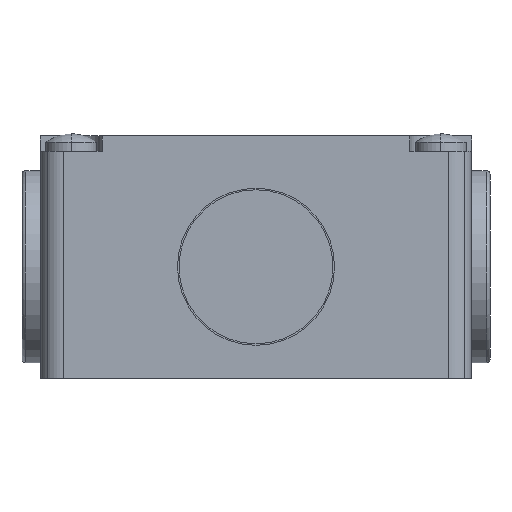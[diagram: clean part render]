
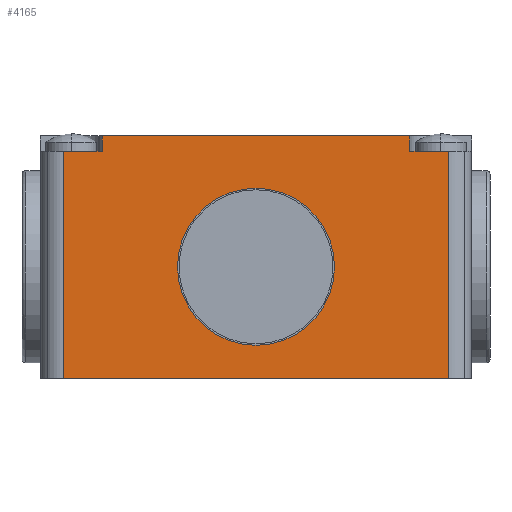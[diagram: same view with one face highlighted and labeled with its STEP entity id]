
A CAD part, front view. The second image highlights one B-rep face of the part: STEP entity #4165.
In plain terms, the highlighted planar face has unit normal (0, -1, 0).
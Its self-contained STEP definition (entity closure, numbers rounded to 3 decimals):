
#81 = VERTEX_POINT ( 'NONE', #1292 ) ;
#93 = ORIENTED_EDGE ( 'NONE', *, *, #11031, .F. ) ;
#142 = ORIENTED_EDGE ( 'NONE', *, *, #2357, .F. ) ;
#782 = VECTOR ( 'NONE', #4294, 1000. ) ;
#917 = DIRECTION ( 'NONE',  ( 0., 0., -1. ) ) ;
#1042 = CARTESIAN_POINT ( 'NONE',  ( 20., -56.8, 17. ) ) ;
#1043 = CARTESIAN_POINT ( 'NONE',  ( -20., -56.8, 15. ) ) ;
#1221 = VERTEX_POINT ( 'NONE', #4106 ) ;
#1263 = ORIENTED_EDGE ( 'NONE', *, *, #5627, .T. ) ;
#1292 = CARTESIAN_POINT ( 'NONE',  ( -20., -56.8, 17. ) ) ;
#1331 = EDGE_CURVE ( 'NONE', #2002, #10194, #3453, .T. ) ;
#1620 = CARTESIAN_POINT ( 'NONE',  ( 20., -56.8, 15. ) ) ;
#1984 = CARTESIAN_POINT ( 'NONE',  ( 0., -56.8, 0. ) ) ;
#2002 = VERTEX_POINT ( 'NONE', #4084 ) ;
#2357 = EDGE_CURVE ( 'NONE', #10194, #81, #8497, .T. ) ;
#3244 = VECTOR ( 'NONE', #8701, 1000. ) ;
#3422 = DIRECTION ( 'NONE',  ( 0., 0., -1. ) ) ;
#3453 = LINE ( 'NONE', #7040, #18071 ) ;
#3707 = LINE ( 'NONE', #8649, #782 ) ;
#3780 = CARTESIAN_POINT ( 'NONE',  ( -25., -56.8, -14.5 ) ) ;
#3946 = CARTESIAN_POINT ( 'NONE',  ( 28., -56.8, 15. ) ) ;
#4084 = CARTESIAN_POINT ( 'NONE',  ( -25., -56.8, 15. ) ) ;
#4106 = CARTESIAN_POINT ( 'NONE',  ( 25., -56.8, -14.5 ) ) ;
#4165 = ADVANCED_FACE ( 'NONE', ( #16533, #12206 ), #8171, .T. ) ;
#4201 = VERTEX_POINT ( 'NONE', #15537 ) ;
#4294 = DIRECTION ( 'NONE',  ( 1., 0., 0. ) ) ;
#4316 = LINE ( 'NONE', #3780, #11618 ) ;
#4466 = ORIENTED_EDGE ( 'NONE', *, *, #11090, .F. ) ;
#4679 = ORIENTED_EDGE ( 'NONE', *, *, #18797, .T. ) ;
#5101 = ORIENTED_EDGE ( 'NONE', *, *, #12357, .F. ) ;
#5249 = DIRECTION ( 'NONE',  ( 0., 0., 1. ) ) ;
#5457 = LINE ( 'NONE', #3946, #12765 ) ;
#5627 = EDGE_CURVE ( 'NONE', #15827, #1221, #3707, .T. ) ;
#5630 = EDGE_CURVE ( 'NONE', #5748, #11929, #7121, .T. ) ;
#5733 = CARTESIAN_POINT ( 'NONE',  ( 0., -56.8, -10.2 ) ) ;
#5748 = VERTEX_POINT ( 'NONE', #1620 ) ;
#5768 = CARTESIAN_POINT ( 'NONE',  ( 20., -56.8, 15. ) ) ;
#6255 = CARTESIAN_POINT ( 'NONE',  ( 25., -56.8, -14.5 ) ) ;
#6814 = CARTESIAN_POINT ( 'NONE',  ( 0., -56.8, 0. ) ) ;
#7040 = CARTESIAN_POINT ( 'NONE',  ( -28., -56.8, 15. ) ) ;
#7106 = AXIS2_PLACEMENT_3D ( 'NONE', #6814, #17051, #8312 ) ;
#7121 = LINE ( 'NONE', #5768, #3244 ) ;
#7260 = AXIS2_PLACEMENT_3D ( 'NONE', #1984, #12176, #3422 ) ;
#7977 = CARTESIAN_POINT ( 'NONE',  ( -25., -56.8, -14.5 ) ) ;
#8171 = PLANE ( 'NONE',  #17757 ) ;
#8312 = DIRECTION ( 'NONE',  ( 0., 0., -1. ) ) ;
#8402 = CARTESIAN_POINT ( 'NONE',  ( -25., -56.8, 17. ) ) ;
#8424 = VECTOR ( 'NONE', #17943, 1000. ) ;
#8497 = LINE ( 'NONE', #15086, #11913 ) ;
#8649 = CARTESIAN_POINT ( 'NONE',  ( -25., -56.8, -14.5 ) ) ;
#8701 = DIRECTION ( 'NONE',  ( 0., 0., 1. ) ) ;
#9129 = CARTESIAN_POINT ( 'NONE',  ( 0., -56.8, 10.2 ) ) ;
#9483 = EDGE_LOOP ( 'NONE', ( #4466, #15106 ) ) ;
#9527 = ORIENTED_EDGE ( 'NONE', *, *, #1331, .F. ) ;
#9621 = DIRECTION ( 'NONE',  ( 0., -1., 0. ) ) ;
#9848 = DIRECTION ( 'NONE',  ( 1., 0., 0. ) ) ;
#10194 = VERTEX_POINT ( 'NONE', #1043 ) ;
#10442 = VECTOR ( 'NONE', #9848, 1000. ) ;
#10729 = DIRECTION ( 'NONE',  ( 0., 0., 1. ) ) ;
#11031 = EDGE_CURVE ( 'NONE', #15827, #2002, #4316, .T. ) ;
#11090 = EDGE_CURVE ( 'NONE', #16438, #17529, #18460, .T. ) ;
#11359 = EDGE_CURVE ( 'NONE', #1221, #4201, #15707, .T. ) ;
#11618 = VECTOR ( 'NONE', #5249, 1000. ) ;
#11913 = VECTOR ( 'NONE', #10729, 1000. ) ;
#11929 = VERTEX_POINT ( 'NONE', #1042 ) ;
#12176 = DIRECTION ( 'NONE',  ( 0., -1., 0. ) ) ;
#12206 = FACE_OUTER_BOUND ( 'NONE', #17113, .T. ) ;
#12357 = EDGE_CURVE ( 'NONE', #81, #11929, #18644, .T. ) ;
#12454 = CARTESIAN_POINT ( 'NONE',  ( -25., -56.8, -14.5 ) ) ;
#12765 = VECTOR ( 'NONE', #18553, 1000. ) ;
#12982 = EDGE_CURVE ( 'NONE', #17529, #16438, #14305, .T. ) ;
#14305 = CIRCLE ( 'NONE', #7260, 10.2 ) ;
#14343 = DIRECTION ( 'NONE',  ( 1., 0., 0. ) ) ;
#15086 = CARTESIAN_POINT ( 'NONE',  ( -20., -56.8, 15. ) ) ;
#15106 = ORIENTED_EDGE ( 'NONE', *, *, #12982, .F. ) ;
#15426 = ORIENTED_EDGE ( 'NONE', *, *, #5630, .T. ) ;
#15537 = CARTESIAN_POINT ( 'NONE',  ( 25., -56.8, 15. ) ) ;
#15707 = LINE ( 'NONE', #6255, #8424 ) ;
#15827 = VERTEX_POINT ( 'NONE', #7977 ) ;
#16438 = VERTEX_POINT ( 'NONE', #5733 ) ;
#16533 = FACE_BOUND ( 'NONE', #9483, .T. ) ;
#16861 = ORIENTED_EDGE ( 'NONE', *, *, #11359, .T. ) ;
#17051 = DIRECTION ( 'NONE',  ( 0., -1., 0. ) ) ;
#17113 = EDGE_LOOP ( 'NONE', ( #1263, #16861, #4679, #15426, #5101, #142, #9527, #93 ) ) ;
#17529 = VERTEX_POINT ( 'NONE', #9129 ) ;
#17757 = AXIS2_PLACEMENT_3D ( 'NONE', #12454, #9621, #917 ) ;
#17943 = DIRECTION ( 'NONE',  ( 0., 0., 1. ) ) ;
#18071 = VECTOR ( 'NONE', #14343, 1000. ) ;
#18460 = CIRCLE ( 'NONE', #7106, 10.2 ) ;
#18553 = DIRECTION ( 'NONE',  ( -1., 0., 0. ) ) ;
#18644 = LINE ( 'NONE', #8402, #10442 ) ;
#18797 = EDGE_CURVE ( 'NONE', #4201, #5748, #5457, .T. ) ;
